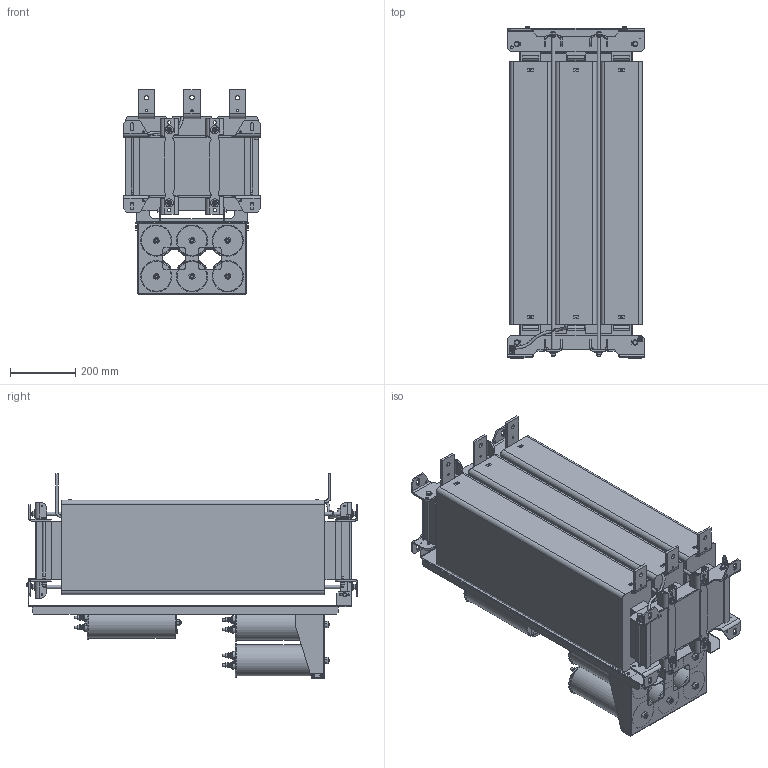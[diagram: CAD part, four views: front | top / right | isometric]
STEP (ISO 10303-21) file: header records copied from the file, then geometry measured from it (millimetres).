
FILE_DESCRIPTION(/* description */ (''),/* implementation_level */ '2;1');
FILE_NAME(/* name */ 'C:\Users\Erika.Jenzer\Desktop\CO20007647\Step Files\FN5420-1000-99-E0XXT.stp',/* time_stamp */ '2021-03-02T10:40:26+01:00',/* author */ ('erika.jenzer'),/* organization */ (''),/* preprocessor_version */ 'ST-DEVELOPER v18.1',/* originating_system */ 'Autodesk Inventor 2020',/* authorisation */ '');
FILE_SCHEMA (('AUTOMOTIVE_DESIGN { 1 0 10303 214 3 1 1 }'));
Products named in the file (1): FN5420-1000-99-E0XXT
Bounding box: 420 x 1021.45 x 630.58 mm (x, y, z)
Volume: 118176011.7 mm3; surface area: 5114250 mm2
Topology: 43 solids, 43 shells, 3155 faces, 8649 edges, 5823 vertices
Faces by surface type: plane 2056, cylinder 784, cone 179, bspline 99, torus 36, sphere 1
Full cylindrical faces by diameter (mm): 0.003 x1, 1 x1, 2.013 x4, 2.5 x1, 2.8 x5, 3.4 x4, 4 x4, 4.1 x4, 4.3 x4, 5.5 x20, 6 x8, 6.6 x6, 7.78 x4, 7.9 x8, 8 x77, 8.2 x1, 8.4 x18, 8.6 x36, 9 x12, 9.5 x4, 10.2 x16, 10.5 x7, 11.4 x1, 11.5 x18, 12 x27, 12.5 x9, 13 x4, 13.5 x6, 16 x46, 22 x18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
Entity records: 108965 total; most frequent: CARTESIAN_POINT 24028, ORIENTED_EDGE 17298, DIRECTION 16792, EDGE_CURVE 8649, AXIS2_PLACEMENT_3D 5842, VERTEX_POINT 5823, LINE 5108, VECTOR 5108
